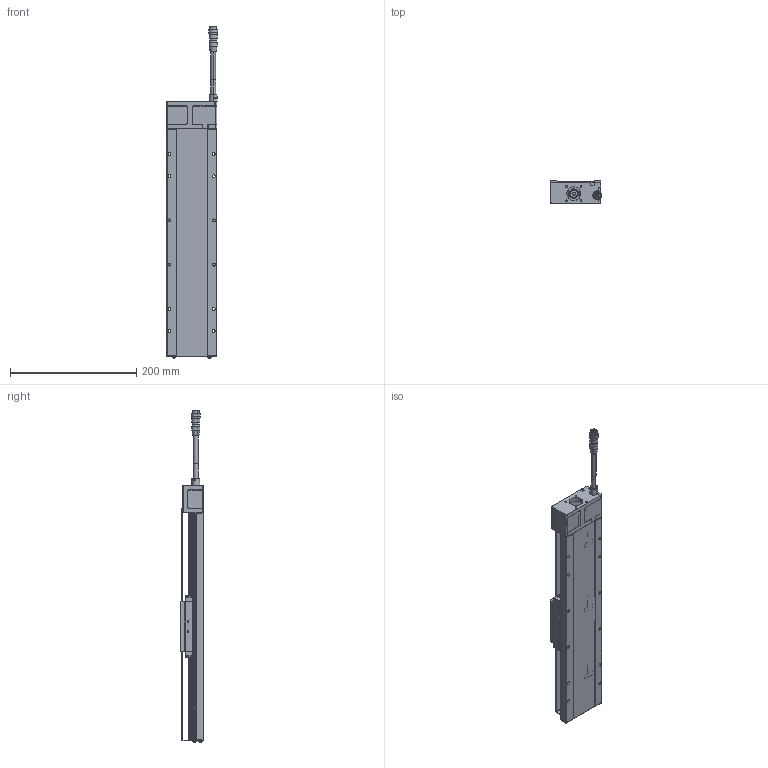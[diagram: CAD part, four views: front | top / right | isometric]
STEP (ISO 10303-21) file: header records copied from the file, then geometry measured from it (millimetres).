
FILE_DESCRIPTION (( 'STEP AP203' ), '1' );
FILE_NAME ('CXC80250-S2?N(µL°¨¹F).S', '2024-01-05T05:34:41', ( '' ), ( '' ), 'SwSTEP 2.0', 'SolidWorks 2019', '' );
FILE_SCHEMA (( 'CONFIG_CONTROL_DESIGN' ));
Length unit declared in the file: millimetre
Products named in the file (9): CXC80250-S2OPAN-303; SG02B005_SCM435(化鎳); CXC80250-S2?N(無馬達); SC04B006_SCM435(化鎳); Group2^CXC80250-S2?N(28框無馬達)_defeature_GMT; Group1^CXC80250-S2?N(28框無馬達)_defeature_GMT; HR10A-10J-12P_帶線示意; CXC80-102; SD03B006_SD03B006-SCM435(化鎳)
Assembly tree (16 placements, depth 2):
  CXC80250-S2?N(無馬達)
    Group1^CXC80250-S2?N(28框無馬達)_defeature_GMT
    Group2^CXC80250-S2?N(28框無馬達)_defeature_GMT
    CXC80250-S2OPAN-303
    CXC80-102  x2
    SC04B006_SCM435(化鎳)  x4
    SD03B006_SD03B006-SCM435(化鎳)  x4
    SG02B005_SCM435(化鎳)  x2
    HR10A-10J-12P_帶線示意
Bounding box: 80.99 x 37 x 525.17 mm (x, y, z)
Volume: 98399.1 mm3; surface area: 225408.2 mm2
Topology: 36 solids, 38 shells, 4117 faces, 10387 edges, 6322 vertices
Faces by surface type: plane 1460, cylinder 1224, cone 613, bspline 324, torus 298, sphere 198
Entity records: 130514 total; most frequent: CARTESIAN_POINT 37654, DIRECTION 19686, ORIENTED_EDGE 19092, EDGE_CURVE 9546, AXIS2_PLACEMENT_3D 7477, VERTEX_POINT 5903, LINE 4732, VECTOR 4732
